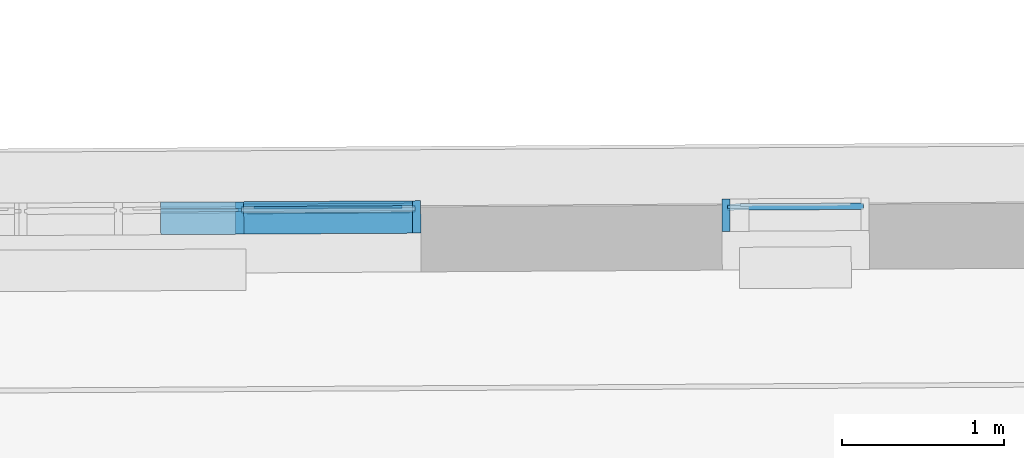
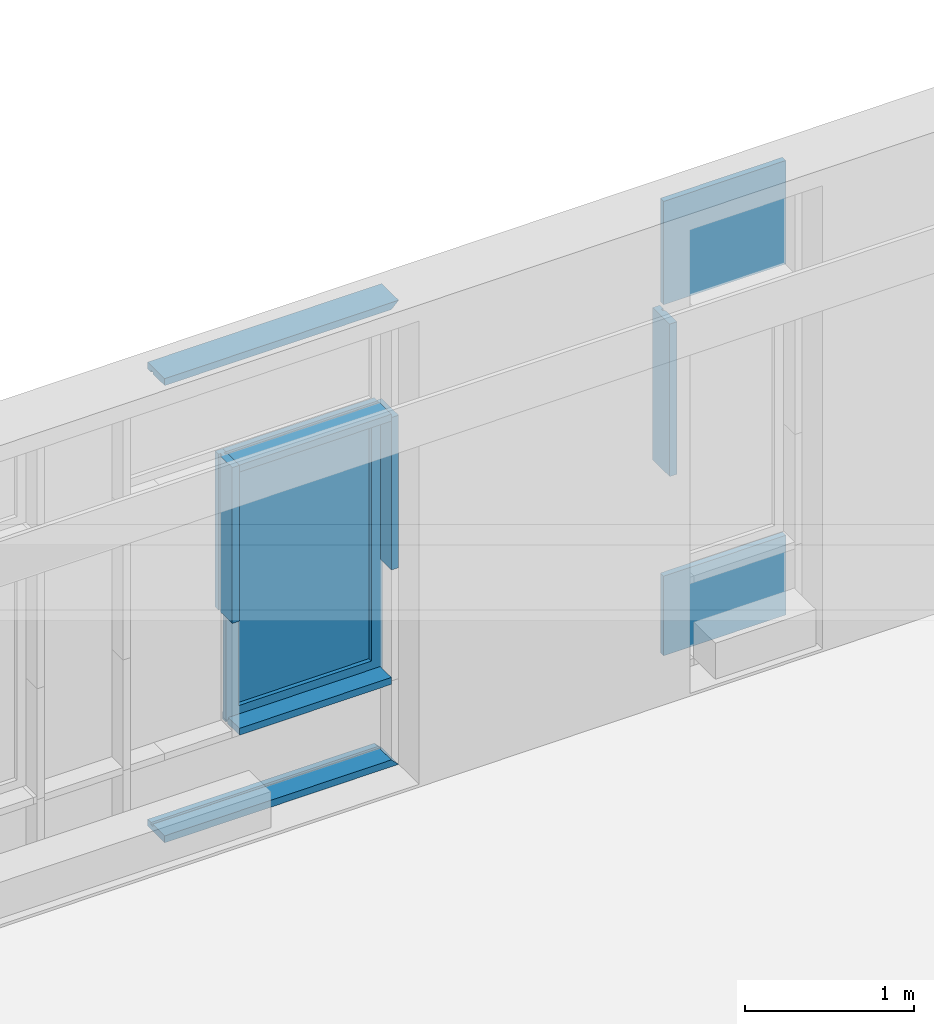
# One storey, part 110 of 158: 11 building element parts, 2 elements without a shape of their own.
"""IFC2X3 building model written with IfcOpenShell, lengths in metres."""

from ifc_helpers import new_model, entity, si_unit, converted_unit, derived_unit, money_unit, direction, frame, origin_with_axes, place, context, subcontext, project, spatial, faceted_brep, material, type_object, element, aggregate, save


model = new_model("IFC2X3")

# Units and contexts
model_context = context("Model", 3, precision=1e-05, world=origin_with_axes(), true_north=direction((0.0, 1.0)))
body_context = subcontext(model_context, "Body", "Model", "MODEL_VIEW")
ifc_project = project(units=[si_unit("LENGTHUNIT", "METRE"), si_unit("AREAUNIT", "SQUARE_METRE"), si_unit("VOLUMEUNIT", "CUBIC_METRE"), converted_unit("PLANEANGLEUNIT", "DEGREE", entity("IfcPlaneAngleMeasure", 0.0174532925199), si_unit("PLANEANGLEUNIT", "RADIAN"), dimensions=[0, 0, 0, 0, 0, 0, 0]), money_unit("EUR"), converted_unit("TIMEUNIT", "Year", entity("IfcTimeMeasure", 31556926.0), si_unit("TIMEUNIT", "SECOND"), dimensions=[0, 0, 1, 0, 0, 0, 0]), si_unit("MASSUNIT", "GRAM", prefix="KILO"), si_unit("THERMODYNAMICTEMPERATUREUNIT", "DEGREE_CELSIUS"), si_unit("LUMINOUSINTENSITYUNIT", "LUMEN"), si_unit("ENERGYUNIT", "JOULE", prefix="MEGA"), derived_unit("THERMALCONDUCTANCEUNIT", [(si_unit("POWERUNIT", "WATT"), 1), (si_unit("LENGTHUNIT", "METRE"), -1), (si_unit("THERMODYNAMICTEMPERATUREUNIT", "KELVIN"), -1)]), derived_unit("SPECIFICHEATCAPACITYUNIT", [(si_unit("ENERGYUNIT", "JOULE"), 1), (si_unit("MASSUNIT", "GRAM", prefix="KILO"), -1), (si_unit("THERMODYNAMICTEMPERATUREUNIT", "KELVIN"), -1)]), derived_unit("MASSDENSITYUNIT", [(si_unit("MASSUNIT", "GRAM", prefix="KILO"), 1), (si_unit("VOLUMEUNIT", "CUBIC_METRE"), -1)])], contexts=[model_context])

# Site, building, storey
site_placement = place(None, origin_with_axes())
site = spatial("IfcSite", under=ifc_project, at=site_placement, Name="Gelände", CompositionType="ELEMENT")
building_placement = place(site_placement, origin_with_axes())
building = spatial("IfcBuilding", under=site, at=building_placement, Name="Gebäude", CompositionType="ELEMENT")
storey_placement = place(building_placement, origin_with_axes())
storey = spatial("IfcBuildingStorey", under=building, at=storey_placement, Name="ERDGESCHOSS", CompositionType="ELEMENT", Elevation=0.0)

# Proxy, building element parts
building_element_proxy_type = type_object("IfcBuildingElementProxyType", Name="Fassadentyp", PredefinedType="NOTDEFINED")
proxy_1_placement = place(storey_placement, frame((-22.8016333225, 53.9701805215, 1.34043904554), z_axis=(0.0, 0.0, 1.0), x_axis=(1.0, 0.0, 0.0)))
proxy_1 = element("IfcBuildingElementProxy", 1, at=proxy_1_placement, inside=storey, type_object=building_element_proxy_type, Name="Fassade-002")
ifc_material_1 = material(Name="53_Metall, Aluminium")
building_element_part_1_placement = place(proxy_1_placement, origin_with_axes())
building_element_part_1 = element("IfcBuildingElementPart", 2, at=building_element_part_1_placement, material=ifc_material_1, Name="53_Metall, Aluminium", context=body_context, shape_type="Brep", body=[
    faceted_brep([(2.10777631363, 0.0422924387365, 0.64500002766), (1.0668429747, 0.0362220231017, 0.64500002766), (1.06681381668, 0.0412219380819, 0.64500002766), (2.1077471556, 0.0472923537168, 0.64500002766), (2.0627770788, 0.0420300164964, 0.69000002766), (1.11184220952, 0.0364844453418, 0.69000002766), (1.1118130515, 0.041484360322, 0.69000002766), (2.06274792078, 0.0470299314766, 0.69000002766)], [[[0, 1, 2, 3]], [[0, 4, 5, 1]], [[1, 5, 6, 2]], [[3, 2, 6, 7]], [[4, 0, 3, 7]], [[5, 4, 7, 6]]]),
    faceted_brep([(1.0668429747, 0.0362220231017, 0.64500002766), (1.0668429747, 0.0362220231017, 2.49500000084), (1.06681381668, 0.0412219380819, 2.49500000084), (1.06681381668, 0.0412219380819, 0.64500002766), (1.11184220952, 0.0364844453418, 0.69000002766), (1.11184220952, 0.0364844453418, 2.45000000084), (1.1118130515, 0.041484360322, 2.45000000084), (1.1118130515, 0.041484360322, 0.69000002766)], [[[0, 1, 2, 3]], [[0, 4, 5, 1]], [[1, 5, 6, 2]], [[3, 2, 6, 7]], [[4, 0, 3, 7]], [[5, 4, 7, 6]]]),
    faceted_brep([(2.10777631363, 0.0422924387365, 2.49500000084), (2.0627770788, 0.0420300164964, 2.45000000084), (2.06274792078, 0.0470299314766, 2.45000000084), (2.1077471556, 0.0472923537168, 2.49500000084), (1.0668429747, 0.0362220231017, 2.49500000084), (1.11184220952, 0.0364844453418, 2.45000000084), (1.1118130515, 0.041484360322, 2.45000000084), (1.06681381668, 0.0412219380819, 2.49500000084)], [[[0, 1, 2, 3]], [[0, 4, 5, 1]], [[1, 5, 6, 2]], [[3, 2, 6, 7]], [[4, 0, 3, 7]], [[5, 4, 7, 6]]]),
    faceted_brep([(2.10777631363, 0.0422924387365, 0.64500002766), (2.0627770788, 0.0420300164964, 0.69000002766), (2.06274792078, 0.0470299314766, 0.69000002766), (2.1077471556, 0.0472923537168, 0.64500002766), (2.10777631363, 0.0422924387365, 2.49500000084), (2.0627770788, 0.0420300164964, 2.45000000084), (2.06274792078, 0.0470299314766, 2.45000000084), (2.1077471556, 0.0472923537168, 2.49500000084)], [[[0, 1, 2, 3]], [[0, 4, 5, 1]], [[1, 5, 6, 2]], [[3, 2, 6, 7]], [[4, 0, 3, 7]], [[5, 4, 7, 6]]]),
    faceted_brep([(2.10806789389, -0.00770671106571, 0.64500002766), (1.06713455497, -0.0137771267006, 0.64500002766), (1.0668429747, 0.0362220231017, 0.64500002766), (2.10777631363, 0.0422924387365, 0.64500002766), (2.08806823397, -0.00782334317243, 0.66500002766), (1.08713421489, -0.0136604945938, 0.66500002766), (1.08684263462, 0.0363386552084, 0.66500002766), (2.0877766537, 0.0421758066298, 0.66500002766)], [[[0, 1, 2, 3]], [[0, 4, 5, 1]], [[1, 5, 6, 2]], [[3, 2, 6, 7]], [[4, 0, 3, 7]], [[5, 4, 7, 6]]]),
    faceted_brep([(1.06713455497, -0.0137771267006, 0.64500002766), (1.06713455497, -0.0137771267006, 2.49500000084), (1.0668429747, 0.0362220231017, 2.49500000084), (1.0668429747, 0.0362220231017, 0.64500002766), (1.08713421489, -0.0136604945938, 0.66500002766), (1.08713421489, -0.0136604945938, 2.47500000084), (1.08684263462, 0.0363386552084, 2.47500000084), (1.08684263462, 0.0363386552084, 0.66500002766)], [[[0, 1, 2, 3]], [[0, 4, 5, 1]], [[1, 5, 6, 2]], [[3, 2, 6, 7]], [[4, 0, 3, 7]], [[5, 4, 7, 6]]]),
    faceted_brep([(2.10806789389, -0.00770671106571, 2.49500000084), (2.08806823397, -0.00782334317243, 2.47500000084), (2.0877766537, 0.0421758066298, 2.47500000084), (2.10777631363, 0.0422924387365, 2.49500000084), (1.06713455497, -0.0137771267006, 2.49500000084), (1.08713421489, -0.0136604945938, 2.47500000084), (1.08684263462, 0.0363386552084, 2.47500000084), (1.0668429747, 0.0362220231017, 2.49500000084)], [[[0, 1, 2, 3]], [[0, 4, 5, 1]], [[1, 5, 6, 2]], [[3, 2, 6, 7]], [[4, 0, 3, 7]], [[5, 4, 7, 6]]]),
    faceted_brep([(2.10806789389, -0.00770671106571, 0.64500002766), (2.08806823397, -0.00782334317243, 0.66500002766), (2.0877766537, 0.0421758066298, 0.66500002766), (2.10777631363, 0.0422924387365, 0.64500002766), (2.10806789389, -0.00770671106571, 2.49500000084), (2.08806823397, -0.00782334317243, 2.47500000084), (2.0877766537, 0.0421758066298, 2.47500000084), (2.10777631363, 0.0422924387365, 2.49500000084)], [[[0, 1, 2, 3]], [[0, 4, 5, 1]], [[1, 5, 6, 2]], [[3, 2, 6, 7]], [[4, 0, 3, 7]], [[5, 4, 7, 6]]]),
    faceted_brep([(2.12306762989, -0.00761923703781, 0.630000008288), (1.05213479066, -0.0138646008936, 0.630000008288), (1.05190152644, 0.0261347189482, 0.630000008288), (2.12283436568, 0.032380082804, 0.630000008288), (2.10806789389, -0.00770671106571, 0.64500002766), (1.06713455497, -0.0137771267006, 0.64500002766), (1.06690129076, 0.0262221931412, 0.64500002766), (2.10783462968, 0.0322926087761, 0.64500002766)], [[[0, 1, 2, 3]], [[0, 4, 5, 1]], [[1, 5, 6, 2]], [[3, 2, 6, 7]], [[4, 0, 3, 7]], [[5, 4, 7, 6]]]),
    faceted_brep([(1.05213479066, -0.0138646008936, 0.630000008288), (1.05213479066, -0.0138646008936, 2.51000002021), (1.05190152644, 0.0261347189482, 2.51000002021), (1.05190152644, 0.0261347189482, 0.630000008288), (1.06713455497, -0.0137771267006, 0.64500002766), (1.06713455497, -0.0137771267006, 2.49500000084), (1.06690129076, 0.0262221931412, 2.49500000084), (1.06690129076, 0.0262221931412, 0.64500002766)], [[[0, 1, 2, 3]], [[0, 4, 5, 1]], [[1, 5, 6, 2]], [[3, 2, 6, 7]], [[4, 0, 3, 7]], [[5, 4, 7, 6]]]),
    faceted_brep([(1.05213479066, -0.0138646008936, 2.51000002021), (2.12306762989, -0.00761923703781, 2.51000002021), (2.12283436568, 0.032380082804, 2.51000002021), (1.05190152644, 0.0261347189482, 2.51000002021), (1.06713455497, -0.0137771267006, 2.49500000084), (2.10806789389, -0.00770671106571, 2.49500000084), (2.10783462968, 0.0322926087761, 2.49500000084), (1.06690129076, 0.0262221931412, 2.49500000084)], [[[0, 1, 2, 3]], [[0, 4, 5, 1]], [[1, 5, 6, 2]], [[3, 2, 6, 7]], [[4, 0, 3, 7]], [[5, 4, 7, 6]]]),
    faceted_brep([(2.12306762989, -0.00761923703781, 2.51000002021), (2.12306762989, -0.00761923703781, 0.630000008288), (2.12283436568, 0.032380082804, 0.630000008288), (2.12283436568, 0.032380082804, 2.51000002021), (2.10806789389, -0.00770671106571, 2.49500000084), (2.10806789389, -0.00770671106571, 0.64500002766), (2.10783462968, 0.0322926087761, 0.64500002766), (2.10783462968, 0.0322926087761, 2.49500000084)], [[[0, 1, 2, 3]], [[0, 4, 5, 1]], [[1, 5, 6, 2]], [[3, 2, 6, 7]], [[4, 0, 3, 7]], [[5, 4, 7, 6]]]),
    faceted_brep([(2.04277741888, 0.0419133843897, 0.71000002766), (2.04309815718, -0.0130856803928, 0.71000002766), (2.04309815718, -0.0130856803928, 2.43000000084), (2.04277741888, 0.0419133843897, 2.43000000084), (2.0877766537, 0.0421758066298, 0.66500002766), (2.088097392, -0.0128232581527, 0.66500002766), (2.088097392, -0.0128232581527, 2.47500000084), (2.0877766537, 0.0421758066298, 2.47500000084)], [[[0, 1, 2, 3]], [[4, 5, 1, 0]], [[1, 5, 6, 2]], [[3, 2, 6, 7]], [[0, 3, 7, 4]], [[7, 6, 5, 4]]]),
    faceted_brep([(1.08684263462, 0.0363386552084, 0.66500002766), (1.08716337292, -0.0186604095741, 0.66500002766), (1.08716337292, -0.0186604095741, 2.47500000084), (1.08684263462, 0.0363386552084, 2.47500000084), (1.13184186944, 0.0366010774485, 0.71000002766), (1.13216260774, -0.0183979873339, 0.71000002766), (1.13216260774, -0.0183979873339, 2.43000000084), (1.13184186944, 0.0366010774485, 2.43000000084)], [[[0, 1, 2, 3]], [[4, 5, 1, 0]], [[1, 5, 6, 2]], [[3, 2, 6, 7]], [[0, 3, 7, 4]], [[7, 6, 5, 4]]]),
    faceted_brep([(1.08684263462, 0.0363386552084, 0.66500002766), (1.08716337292, -0.0186604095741, 0.66500002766), (1.13216260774, -0.0183979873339, 0.71000002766), (1.13184186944, 0.0366010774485, 0.71000002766), (2.0877766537, 0.0421758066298, 0.66500002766), (2.088097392, -0.0128232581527, 0.66500002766), (2.04309815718, -0.0130856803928, 0.71000002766), (2.04277741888, 0.0419133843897, 0.71000002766)], [[[0, 1, 2, 3]], [[4, 5, 1, 0]], [[1, 5, 6, 2]], [[3, 2, 6, 7]], [[0, 3, 7, 4]], [[7, 6, 5, 4]]]),
    faceted_brep([(2.0877766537, 0.0421758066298, 2.47500000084), (2.088097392, -0.0128232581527, 2.47500000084), (2.04309815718, -0.0130856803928, 2.43000000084), (2.04277741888, 0.0419133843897, 2.43000000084), (1.08684263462, 0.0363386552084, 2.47500000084), (1.08716337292, -0.0186604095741, 2.47500000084), (1.13216260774, -0.0183979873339, 2.43000000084), (1.13184186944, 0.0366010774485, 2.43000000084)], [[[0, 1, 2, 3]], [[4, 5, 1, 0]], [[1, 5, 6, 2]], [[3, 2, 6, 7]], [[0, 3, 7, 4]], [[7, 6, 5, 4]]]),
])
ifc_material_2 = material(Name="45_Glas, Normalglas")
building_element_part_2_placement = place(proxy_1_placement, origin_with_axes())
building_element_part_2 = element("IfcBuildingElementPart", 3, at=building_element_part_2_placement, material=ifc_material_2, Name="45_Glas, Normalglas", context=body_context, shape_type="Brep", body=[
    faceted_brep([(2.04283573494, 0.0319135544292, 0.71000002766), (2.04292904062, 0.0159138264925, 0.71000002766), (1.13199349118, 0.0106015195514, 0.71000002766), (1.1319001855, 0.0266012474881, 0.71000002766), (2.04283573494, 0.0319135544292, 2.43000000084), (2.04292904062, 0.0159138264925, 2.43000000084), (1.13199349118, 0.0106015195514, 2.43000000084), (1.1319001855, 0.0266012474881, 2.43000000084)], [[[0, 1, 2, 3]], [[4, 5, 1, 0]], [[1, 5, 6, 2]], [[3, 2, 6, 7]], [[0, 3, 7, 4]], [[7, 6, 5, 4]]]),
])
building_element_part_3_placement = place(proxy_1_placement, origin_with_axes())
building_element_part_3 = element("IfcBuildingElementPart", 4, at=building_element_part_3_placement, material=ifc_material_1, Name="53_Metall, Aluminium", context=body_context, shape_type="Brep", body=[
    faceted_brep([(0.554972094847, -0.00676373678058, 0.035), (0.55485546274, 0.0132359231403, 0.035), (0.55485546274, 0.0132359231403, 0.05), (0.554622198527, 0.0532352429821, 0.05), (0.554622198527, 0.0532352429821, 0.0), (0.555788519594, -0.146761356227, 0.0), (0.555788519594, -0.146761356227, 0.05), (0.554972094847, -0.00676373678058, 0.05), (2.12300932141, 0.00238059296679, 0.035), (2.1228926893, 0.0223802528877, 0.035), (2.10789294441, 0.022292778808, 0.05), (2.1076596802, 0.0622920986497, 0.05), (2.15765882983, 0.0625836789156, 0.0), (2.1588251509, -0.137412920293, 0.0), (2.10882600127, -0.137704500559, 0.05), (2.10800957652, 0.00229311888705, 0.05)], [[[0, 1, 2, 3, 4, 5, 6, 7]], [[1, 0, 8, 9]], [[10, 2, 1, 9]], [[2, 10, 11, 3]], [[4, 3, 11, 12]], [[5, 4, 12, 13]], [[6, 5, 13, 14]], [[15, 7, 6, 14]], [[0, 7, 15, 8]], [[8, 15, 14, 13, 12, 11, 10, 9]]]),
])
building_element_part_4_placement = place(proxy_1_placement, origin_with_axes())
building_element_part_4 = element("IfcBuildingElementPart", 5, at=building_element_part_4_placement, material=ifc_material_1, Name="53_Metall, Aluminium", context=body_context, shape_type="Brep", body=[
    faceted_brep([(1.0320768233, -0.0039814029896, 2.54500001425), (1.01707707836, -0.00406887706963, 2.54500001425), (1.01789350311, -0.144066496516, 2.54500001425), (1.06789265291, -0.143774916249, 2.54500001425), (1.06707622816, -0.00377729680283, 2.54500001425), (1.05207648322, -0.00386477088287, 2.54500001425), (1.05195985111, 0.016134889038, 2.54500001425), (1.06695959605, 0.0162223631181, 2.54500001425), (1.06672633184, 0.0562216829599, 2.54500001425), (1.01672718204, 0.0559301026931, 2.54500001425), (1.01696044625, 0.0159307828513, 2.54500001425), (1.03196019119, 0.0160182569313, 2.54500001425), (1.0320768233, -0.0039814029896, 1.42000001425), (1.01707707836, -0.00406887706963, 1.42000001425), (1.01789350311, -0.144066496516, 1.42000001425), (1.06789265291, -0.143774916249, 1.42000001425), (1.06707622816, -0.00377729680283, 1.42000001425), (1.05207648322, -0.00386477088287, 1.42000001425), (1.05195985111, 0.016134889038, 1.42000001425), (1.06695959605, 0.0162223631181, 1.42000001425), (1.06672633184, 0.0562216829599, 1.42000001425), (1.01672718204, 0.0559301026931, 1.42000001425), (1.01696044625, 0.0159307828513, 1.42000001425), (1.03196019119, 0.0160182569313, 1.42000001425)], [[[0, 1, 2, 3, 4, 5, 6, 7, 8, 9, 10, 11]], [[1, 0, 12, 13]], [[1, 13, 14, 2]], [[3, 2, 14, 15]], [[4, 3, 15, 16]], [[4, 16, 17, 5]], [[5, 17, 18, 6]], [[7, 6, 18, 19]], [[19, 20, 8, 7]], [[9, 8, 20, 21]], [[22, 10, 9, 21]], [[11, 10, 22, 23]], [[0, 11, 23, 12]], [[23, 22, 21, 20, 19, 18, 17, 16, 15, 14, 13, 12]]]),
])
building_element_part_5_placement = place(proxy_1_placement, origin_with_axes())
building_element_part_5 = element("IfcBuildingElementPart", 6, at=building_element_part_5_placement, material=ifc_material_1, Name="53_Metall, Aluminium", context=body_context, shape_type="Brep", body=[
    faceted_brep([(1.06707622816, -0.00377729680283, 2.51000001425), (1.06707622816, -0.00377729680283, 2.49500001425), (1.06789265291, -0.143774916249, 2.49500001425), (1.06789265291, -0.143774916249, 2.54500001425), (1.06707622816, -0.00377729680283, 2.54500001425), (1.06707622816, -0.00377729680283, 2.53000001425), (1.06695959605, 0.0162223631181, 2.53000001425), (1.06695959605, 0.0162223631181, 2.54500001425), (1.06672633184, 0.0562216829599, 2.54500001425), (1.06672633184, 0.0562216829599, 2.49500001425), (1.06695959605, 0.0162223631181, 2.49500001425), (1.06695959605, 0.0162223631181, 2.51000001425), (2.10800957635, 0.00229311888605, 2.51000001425), (2.10800957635, 0.00229311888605, 2.49500001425), (2.1088260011, -0.13770450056, 2.49500001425), (2.1088260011, -0.13770450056, 2.54500001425), (2.10800957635, 0.00229311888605, 2.54500001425), (2.10800957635, 0.00229311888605, 2.53000001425), (2.10789294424, 0.0222927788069, 2.53000001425), (2.10789294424, 0.0222927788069, 2.54500001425), (2.10765968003, 0.0622920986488, 2.54500001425), (2.10765968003, 0.0622920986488, 2.49500001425), (2.10789294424, 0.0222927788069, 2.49500001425), (2.10789294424, 0.0222927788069, 2.51000001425)], [[[0, 1, 2, 3, 4, 5, 6, 7, 8, 9, 10, 11]], [[1, 0, 12, 13]], [[1, 13, 14, 2]], [[2, 14, 15, 3]], [[4, 3, 15, 16]], [[4, 16, 17, 5]], [[5, 17, 18, 6]], [[7, 6, 18, 19]], [[19, 20, 8, 7]], [[8, 20, 21, 9]], [[22, 10, 9, 21]], [[11, 10, 22, 23]], [[0, 11, 23, 12]], [[23, 22, 21, 20, 19, 18, 17, 16, 15, 14, 13, 12]]]),
])
building_element_part_6_placement = place(proxy_1_placement, origin_with_axes())
building_element_part_6 = element("IfcBuildingElementPart", 7, at=building_element_part_6_placement, material=ifc_material_1, Name="53_Metall, Aluminium", context=body_context, shape_type="Brep", body=[
    faceted_brep([(0.554972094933, -0.00676373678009, 3.31499988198), (0.554972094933, -0.00676373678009, 3.29999988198), (0.55578851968, -0.146761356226, 3.29999988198), (0.55578851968, -0.146761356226, 3.34999988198), (0.554622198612, 0.0532352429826, 3.34999988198), (0.554622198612, 0.0532352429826, 3.29999988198), (0.554855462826, 0.0132359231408, 3.29999988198), (0.554855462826, 0.0132359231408, 3.31499988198), (2.12300932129, 0.00238059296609, 3.31499988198), (2.10800957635, 0.00229311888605, 3.29999988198), (2.1088260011, -0.13770450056, 3.29999988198), (2.1588251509, -0.137412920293, 3.34999988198), (2.15765882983, 0.0625836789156, 3.34999988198), (2.10765968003, 0.0622920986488, 3.29999988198), (2.10789294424, 0.0222927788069, 3.29999988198), (2.12289268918, 0.022380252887, 3.31499988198)], [[[0, 1, 2, 3, 4, 5, 6, 7]], [[0, 8, 9, 1]], [[9, 10, 2, 1]], [[2, 10, 11, 3]], [[3, 11, 12, 4]], [[4, 12, 13, 5]], [[6, 5, 13, 14]], [[14, 15, 7, 6]], [[7, 15, 8, 0]], [[8, 15, 14, 13, 12, 11, 10, 9]]]),
])
building_element_part_7_placement = place(proxy_1_placement, origin_with_axes())
building_element_part_7 = element("IfcBuildingElementPart", 8, at=building_element_part_7_placement, material=ifc_material_1, Name="53_Metall, Aluminium", context=body_context, shape_type="Brep", body=[
    faceted_brep([(2.12300932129, 0.00238059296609, 2.52000001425), (2.10800957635, 0.00229311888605, 2.52000001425), (2.1088260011, -0.13770450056, 2.52000001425), (2.1588251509, -0.137412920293, 2.52000001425), (2.15765882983, 0.0625836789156, 2.52000001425), (2.10765968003, 0.0622920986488, 2.52000001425), (2.10789294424, 0.0222927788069, 2.52000001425), (2.12289268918, 0.022380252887, 2.52000001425), (2.12300932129, 0.00238059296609, 1.42000001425), (2.10800957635, 0.00229311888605, 1.42000001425), (2.1088260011, -0.13770450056, 1.42000001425), (2.1588251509, -0.137412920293, 1.42000001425), (2.15765882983, 0.0625836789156, 1.42000001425), (2.10765968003, 0.0622920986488, 1.42000001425), (2.10789294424, 0.0222927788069, 1.42000001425), (2.12289268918, 0.022380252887, 1.42000001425)], [[[0, 1, 2, 3, 4, 5, 6, 7]], [[0, 8, 9, 1]], [[9, 10, 2, 1]], [[10, 11, 3, 2]], [[11, 12, 4, 3]], [[12, 13, 5, 4]], [[6, 5, 13, 14]], [[14, 15, 7, 6]], [[7, 15, 8, 0]], [[8, 15, 14, 13, 12, 11, 10, 9]]]),
])
building_element_part_8_placement = place(proxy_1_placement, origin_with_axes())
building_element_part_8 = element("IfcBuildingElementPart", 9, at=building_element_part_8_placement, material=ifc_material_1, Name="53_Metall, Aluminium", context=body_context, shape_type="Brep", body=[
    faceted_brep([(1.06707622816, -0.00377729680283, 0.610000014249), (1.06707622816, -0.00377729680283, 0.595000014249), (1.06789265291, -0.143774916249, 0.595000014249), (1.06789265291, -0.143774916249, 0.645000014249), (1.06707622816, -0.00377729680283, 0.645000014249), (1.06707622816, -0.00377729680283, 0.630000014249), (1.06695959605, 0.0162223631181, 0.630000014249), (1.06695959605, 0.0162223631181, 0.645000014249), (1.06672633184, 0.0562216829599, 0.645000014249), (1.06672633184, 0.0562216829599, 0.595000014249), (1.06695959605, 0.0162223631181, 0.595000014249), (1.06695959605, 0.0162223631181, 0.610000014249), (2.10800957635, 0.00229311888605, 0.610000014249), (2.10800957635, 0.00229311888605, 0.595000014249), (2.1088260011, -0.13770450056, 0.595000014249), (2.1088260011, -0.13770450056, 0.645000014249), (2.10800957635, 0.00229311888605, 0.645000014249), (2.10800957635, 0.00229311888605, 0.630000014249), (2.10789294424, 0.0222927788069, 0.630000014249), (2.10789294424, 0.0222927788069, 0.645000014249), (2.10765968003, 0.0622920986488, 0.645000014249), (2.10765968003, 0.0622920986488, 0.595000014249), (2.10789294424, 0.0222927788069, 0.595000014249), (2.10789294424, 0.0222927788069, 0.610000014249)], [[[0, 1, 2, 3, 4, 5, 6, 7, 8, 9, 10, 11]], [[1, 0, 12, 13]], [[1, 13, 14, 2]], [[2, 14, 15, 3]], [[4, 3, 15, 16]], [[4, 16, 17, 5]], [[5, 17, 18, 6]], [[7, 6, 18, 19]], [[19, 20, 8, 7]], [[8, 20, 21, 9]], [[22, 10, 9, 21]], [[11, 10, 22, 23]], [[0, 11, 23, 12]], [[23, 22, 21, 20, 19, 18, 17, 16, 15, 14, 13, 12]]]),
])
aggregate(proxy_1, [building_element_part_1, building_element_part_2, building_element_part_3, building_element_part_4, building_element_part_5, building_element_part_6, building_element_part_7, building_element_part_8])

proxy_2_placement = place(storey_placement, frame((-18.429809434, 53.9956757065, 1.34043902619), z_axis=(0.0, 0.0, 1.0), x_axis=(1.0, 0.0, 0.0)))
proxy_2 = element("IfcBuildingElementProxy", 10, at=proxy_2_placement, inside=storey, type_object=building_element_proxy_type, Name="Fassade-002")
building_element_part_9_placement = place(proxy_2_placement, origin_with_axes())
building_element_part_9 = element("IfcBuildingElementPart", 11, at=building_element_part_9_placement, material=ifc_material_2, Name="45_Glas, Normalglas", context=body_context, shape_type="Brep", body=[
    faceted_brep([(-0.322470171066, -0.021880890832, 3.31499995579), (-0.191794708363, -0.0211188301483, 3.31499995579), (-0.192027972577, 0.0188804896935, 3.31499995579), (-0.322703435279, 0.0181184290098, 3.31499995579), (-0.322470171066, -0.021880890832, 2.56877855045), (-0.191794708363, -0.0211188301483, 2.56877855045), (0.514614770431, -0.0169992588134, 2.56877855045), (0.514614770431, -0.0169992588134, 3.31499995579), (0.514381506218, 0.0230000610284, 3.31499995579), (0.514381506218, 0.0230000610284, 2.56877855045), (-0.192027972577, 0.0188804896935, 2.56877855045), (-0.322703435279, 0.0181184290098, 2.56877855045)], [[[0, 1, 2, 3]], [[0, 4, 5, 6, 7, 1]], [[1, 7, 8, 2]], [[3, 2, 8, 9, 10, 11]], [[4, 0, 3, 11]], [[5, 4, 11, 10]], [[6, 5, 10, 9]], [[7, 6, 9, 8]]]),
])
building_element_part_10_placement = place(proxy_2_placement, origin_with_axes())
building_element_part_10 = element("IfcBuildingElementPart", 12, at=building_element_part_10_placement, material=ifc_material_2, Name="45_Glas, Normalglas", context=body_context, shape_type="Brep", body=[
    faceted_brep([(-0.322470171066, -0.021880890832, 0.610000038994), (-0.191794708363, -0.0211188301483, 0.610000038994), (-0.192027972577, 0.0188804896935, 0.610000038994), (-0.322703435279, 0.0181184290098, 0.610000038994), (-0.322470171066, -0.021880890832, 0.0349999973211), (-0.191794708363, -0.0211188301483, 0.0349999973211), (0.514614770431, -0.0169992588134, 0.0349999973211), (0.514614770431, -0.0169992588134, 0.610000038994), (0.514381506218, 0.0230000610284, 0.610000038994), (0.514381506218, 0.0230000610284, 0.0349999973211), (-0.192027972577, 0.0188804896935, 0.0349999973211), (-0.322703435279, 0.0181184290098, 0.0349999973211)], [[[0, 1, 2, 3]], [[0, 4, 5, 6, 7, 1]], [[1, 7, 8, 2]], [[3, 2, 8, 9, 10, 11]], [[4, 0, 3, 11]], [[5, 4, 11, 10]], [[6, 5, 10, 9]], [[7, 6, 9, 8]]]),
])
building_element_part_11_placement = place(proxy_2_placement, origin_with_axes())
building_element_part_11 = element("IfcBuildingElementPart", 13, at=building_element_part_11_placement, material=ifc_material_1, Name="53_Metall, Aluminium", context=body_context, shape_type="Brep", body=[
    faceted_brep([(-0.322528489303, -0.0118810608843, 2.5200000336), (-0.32264512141, 0.00811859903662, 2.5200000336), (-0.307645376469, 0.00820607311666, 2.5200000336), (-0.307878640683, 0.0482053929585, 2.5200000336), (-0.357877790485, 0.0479138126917, 2.5200000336), (-0.356711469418, -0.152082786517, 2.5200000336), (-0.306712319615, -0.151791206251, 2.5200000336), (-0.307528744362, -0.0117935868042, 2.5200000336), (-0.322528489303, -0.0118810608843, 1.4200000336), (-0.32264512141, 0.00811859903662, 1.4200000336), (-0.307645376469, 0.00820607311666, 1.4200000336), (-0.307878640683, 0.0482053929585, 1.4200000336), (-0.357877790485, 0.0479138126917, 1.4200000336), (-0.356711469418, -0.152082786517, 1.4200000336), (-0.306712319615, -0.151791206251, 1.4200000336), (-0.307528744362, -0.0117935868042, 1.4200000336)], [[[0, 1, 2, 3, 4, 5, 6, 7]], [[1, 0, 8, 9]], [[10, 2, 1, 9]], [[2, 10, 11, 3]], [[12, 4, 3, 11]], [[13, 5, 4, 12]], [[14, 6, 5, 13]], [[15, 7, 6, 14]], [[0, 7, 15, 8]], [[8, 15, 14, 13, 12, 11, 10, 9]]]),
])
aggregate(proxy_2, [building_element_part_9, building_element_part_10, building_element_part_11])

save(model, "model.ifc")
